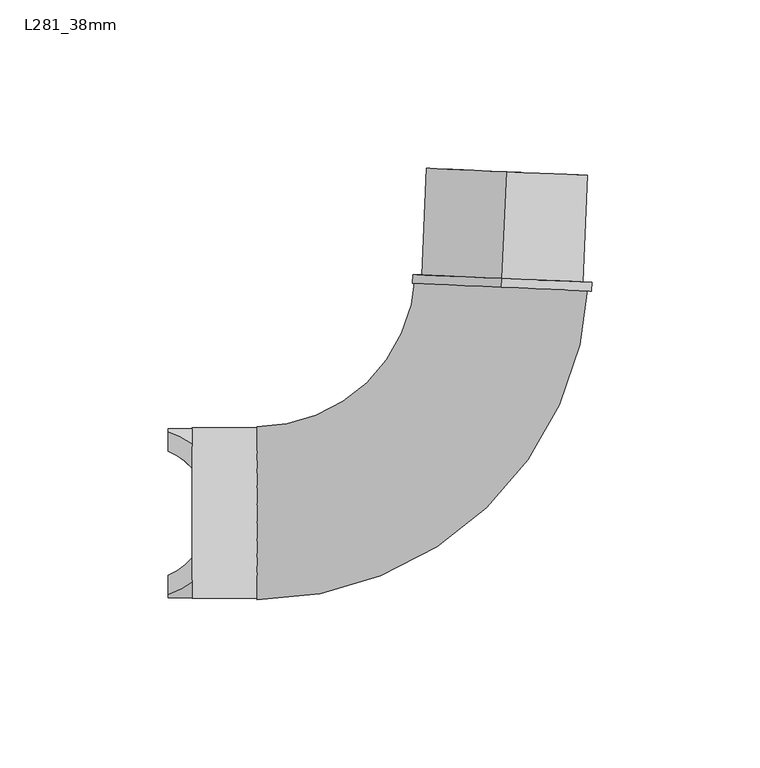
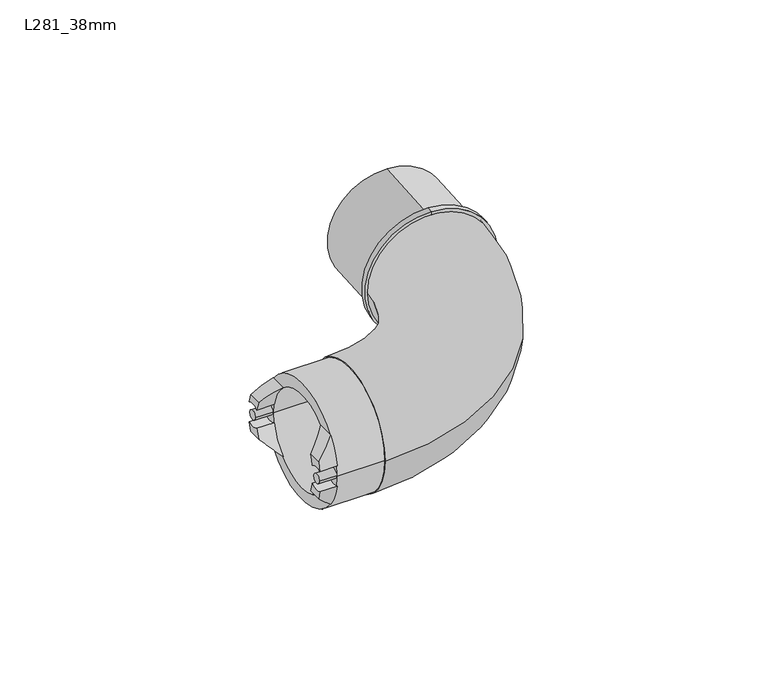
"""IFC4 building model written with IfcOpenShell, lengths in millimetres: pipe fitting geometry, Durapipe_PipeFitting_VulcatheneEnfusion_SingleSocketLongSweepBend_L28 : L281_38mm."""

from ifc_helpers import new_model, si_unit, point, frame, frame_2d, origin, place, context, project, spatial, polyline, circle_curve, ellipse_curve, trimmed, segment, composite_curve, outline, extrude, source, transform, mapped, element, save
from ifc_brep_helpers import plane_surface, cylinder_surface, revolved_surface, advanced_brep


def l281_38mm_a0d47e34(model_context):
    return source(origin(), model_context, "Body", "SolidModel", [
        advanced_brep(
        [(-96.186568, 19.6607692, -3.931495), (-96.186568, 25.0607692, -4.4339988), (-96.186568, 24.1797208, -7.94), (-96.186568, 18.4108365, -7.94), (-89.086568, 20.5597301, -15.0), (-89.086568, 25.0607692, -4.4339988), (-89.086568, 19.6607692, -3.931495), (-89.086568, 13.3042287, -15.0)],
        [
            (0, 1, circle_curve(frame((-96.186568, 22.75, 0.0), z_axis=(1.0, 0.0, 0.0), x_axis=(0.0, -1.0, 0.0)), 5.0)),
            (1, 2, circle_curve(frame((-96.186568, 0.0, 0.0), z_axis=(-1.0, 0.0, 0.0), x_axis=(0.0, -1.0, 0.0)), 25.45)),
            (2, 3),
            (3, 0, circle_curve(frame((-96.186568, 0.0, 0.0), z_axis=(1.0, 0.0, 0.0), x_axis=(0.0, -1.0, 0.0)), 20.05)),
            (4, 5, circle_curve(frame((-89.086568, 0.0, 0.0), z_axis=(1.0, 0.0, 0.0), x_axis=(0.0, -1.0, 0.0)), 25.45)),
            (5, 6, circle_curve(frame((-89.086568, 22.75, 0.0), z_axis=(-1.0, 0.0, 0.0), x_axis=(0.0, -1.0, 0.0)), 5.0)),
            (6, 7, circle_curve(frame((-89.086568, 0.0, 0.0), z_axis=(-1.0, 0.0, 0.0), x_axis=(0.0, -1.0, 0.0)), 20.05)),
            (7, 4),
            (4, 2, ellipse_curve(frame((-104.1715538, 0.0, 0.0), z_axis=(0.7051064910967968, 0.0, 0.7091014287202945), x_axis=(-0.7091014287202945, 0.0, 0.7051064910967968)), 36.0938388, 25.45)),
            (1, 5),
            (6, 0),
            (3, 7, ellipse_curve(frame((-104.1715538, 0.0, 0.0), z_axis=(-0.7051064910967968, 0.0, -0.7091014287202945), x_axis=(0.7091014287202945, 0.0, -0.7051064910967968)), 28.4354211, 20.05)),
        ],
        [
            plane_surface(frame((-96.186568, -20.05, 0.0), z_axis=(-1.0, 0.0, 0.0), x_axis=(0.0, 0.0, -1.0))),
            plane_surface(frame((-89.086568, -20.05, 0.0), z_axis=(1.0, 0.0, 0.0), x_axis=(0.0, 0.0, 1.0))),
            cylinder_surface(frame((-89.086568, 0.0, 0.0), z_axis=(-1.0, 0.0, 0.0), x_axis=(0.0, -1.0, 0.0)), 25.45),
            revolved_surface(polyline([(-84.0079560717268, -20.05, 0.0), (-124.3351515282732, -20.05, 0.0)]), (-89.086568, 0.0, 0.0), (1.0, 0.0, 0.0)),
            revolved_surface(polyline([(-96.186568, 17.75, 0.0), (-89.086568, 17.75, 0.0)]), (-89.086568, 22.75, 0.0), (-1.0, 0.0, 0.0)),
            plane_surface(frame((-89.086568, -104.876707, -15.0), z_axis=(-0.7051064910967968, 0.0, -0.7091014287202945), x_axis=(0.0, 1.0, 0.0))),
        ],
        [
            (0, [[1, 2, 3, 4]]),
            (1, [[5, 6, 7, 8]]),
            (2, [[-5, 9, -2, 10]]),
            (3, [[-7, 11, -4, 12]]),
            (4, [[-1, -11, -6, -10]]),
            (5, [[-3, -9, -8, -12]]),
        ],
    ),
        advanced_brep(
        [(-96.186568, 25.0607692, 4.4339988), (-96.186568, 19.6607692, 3.931495), (-96.186568, 18.4108365, 7.94), (-96.186568, 24.1797208, 7.94), (-89.086568, 25.0607692, 4.4339988), (-89.086568, 20.5597301, 15.0), (-89.086568, 13.3042287, 15.0), (-89.086568, 19.6607692, 3.931495)],
        [
            (0, 1, circle_curve(frame((-96.186568, 22.75, 0.0), z_axis=(1.0, 0.0, 0.0), x_axis=(0.0, -1.0, 0.0)), 5.0)),
            (1, 2, circle_curve(frame((-96.186568, 0.0, 0.0), z_axis=(1.0, 0.0, 0.0), x_axis=(0.0, -1.0, 0.0)), 20.05)),
            (2, 3),
            (3, 0, circle_curve(frame((-96.186568, 0.0, 0.0), z_axis=(-1.0, 0.0, 0.0), x_axis=(0.0, -1.0, 0.0)), 25.45)),
            (4, 5, circle_curve(frame((-89.086568, 0.0, 0.0), z_axis=(1.0, 0.0, 0.0), x_axis=(0.0, -1.0, 0.0)), 25.45)),
            (5, 6),
            (6, 7, circle_curve(frame((-89.086568, 0.0, 0.0), z_axis=(-1.0, 0.0, 0.0), x_axis=(0.0, -1.0, 0.0)), 20.05)),
            (7, 4, circle_curve(frame((-89.086568, 22.75, 0.0), z_axis=(-1.0, 0.0, 0.0), x_axis=(0.0, -1.0, 0.0)), 5.0)),
            (4, 0),
            (3, 5, ellipse_curve(frame((-104.1715538, 0.0, 0.0), z_axis=(0.7051064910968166, 0.0, -0.7091014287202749), x_axis=(-0.7091014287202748, 0.0, -0.7051064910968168)), 36.0938388, 25.45)),
            (6, 2, ellipse_curve(frame((-104.1715538, 0.0, 0.0), z_axis=(-0.7051064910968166, 0.0, 0.7091014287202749), x_axis=(0.7091014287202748, 0.0, 0.7051064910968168)), 28.4354211, 20.05)),
            (1, 7),
        ],
        [
            plane_surface(frame((-96.186568, -20.05, 0.0), z_axis=(-1.0, 0.0, 0.0), x_axis=(0.0, 0.0, -1.0))),
            plane_surface(frame((-89.086568, -20.05, 0.0), z_axis=(1.0, 0.0, 0.0), x_axis=(0.0, 0.0, 1.0))),
            cylinder_surface(frame((-89.086568, 0.0, 0.0), z_axis=(-1.0, 0.0, 0.0), x_axis=(0.0, -1.0, 0.0)), 25.45),
            revolved_surface(polyline([(-84.00795607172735, -20.05, 0.0), (-124.33515152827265, -20.05, 0.0)]), (-89.086568, 0.0, 0.0), (1.0, 0.0, 0.0)),
            revolved_surface(polyline([(-96.186568, 17.75, 0.0), (-89.086568, 17.75, 0.0)]), (-89.086568, 22.75, 0.0), (-1.0, 0.0, 0.0)),
            plane_surface(frame((-96.186568, -104.876707, 7.94), z_axis=(-0.7051064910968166, 0.0, 0.7091014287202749), x_axis=(0.0, 1.0, 0.0))),
        ],
        [
            (0, [[1, 2, 3, 4]]),
            (1, [[5, 6, 7, 8]]),
            (2, [[-5, 9, -4, 10]]),
            (3, [[-7, 11, -2, 12]]),
            (4, [[-1, -9, -8, -12]]),
            (5, [[-3, -11, -6, -10]]),
        ],
    ),
        advanced_brep(
        [(-96.186568, -25.0607692, -4.4339988), (-96.186568, -19.6607692, -3.931495), (-96.186568, -18.4108365, -7.94), (-96.186568, -24.1797208, -7.94), (-89.086568, -25.0607692, -4.4339988), (-89.086568, -20.5597301, -15.0), (-89.086568, -13.3042287, -15.0), (-89.086568, -19.6607692, -3.931495)],
        [
            (0, 1, circle_curve(frame((-96.186568, -22.75, 0.0), z_axis=(1.0, 0.0, 0.0), x_axis=(0.0, -1.0, 0.0)), 5.0)),
            (1, 2, circle_curve(frame((-96.186568, 0.0, 0.0), z_axis=(1.0, 0.0, 0.0), x_axis=(0.0, -1.0, 0.0)), 20.05)),
            (2, 3),
            (3, 0, circle_curve(frame((-96.186568, 0.0, 0.0), z_axis=(-1.0, 0.0, 0.0), x_axis=(0.0, -1.0, 0.0)), 25.45)),
            (4, 5, circle_curve(frame((-89.086568, 0.0, 0.0), z_axis=(1.0, 0.0, 0.0), x_axis=(0.0, -1.0, 0.0)), 25.45)),
            (5, 6),
            (6, 7, circle_curve(frame((-89.086568, 0.0, 0.0), z_axis=(-1.0, 0.0, 0.0), x_axis=(0.0, -1.0, 0.0)), 20.05)),
            (7, 4, circle_curve(frame((-89.086568, -22.75, 0.0), z_axis=(-1.0, 0.0, 0.0), x_axis=(0.0, -1.0, 0.0)), 5.0)),
            (4, 0),
            (3, 5, ellipse_curve(frame((-104.1715538, 0.0, 0.0), z_axis=(0.7051064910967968, 0.0, 0.7091014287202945), x_axis=(-0.7091014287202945, 0.0, 0.7051064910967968)), 36.0938388, 25.45)),
            (6, 2, ellipse_curve(frame((-104.1715538, 0.0, 0.0), z_axis=(-0.7051064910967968, 0.0, -0.7091014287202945), x_axis=(0.7091014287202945, 0.0, -0.7051064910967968)), 28.4354211, 20.05)),
            (1, 7),
        ],
        [
            plane_surface(frame((-96.186568, -20.05, 0.0), z_axis=(-1.0, 0.0, 0.0), x_axis=(0.0, 0.0, -1.0))),
            plane_surface(frame((-89.086568, -20.05, 0.0), z_axis=(1.0, 0.0, 0.0), x_axis=(0.0, 0.0, 1.0))),
            cylinder_surface(frame((-89.086568, 0.0, 0.0), z_axis=(-1.0, 0.0, 0.0), x_axis=(0.0, -1.0, 0.0)), 25.45),
            revolved_surface(polyline([(-84.0079560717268, -20.05, 0.0), (-124.3351515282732, -20.05, 0.0)]), (-89.086568, 0.0, 0.0), (1.0, 0.0, 0.0)),
            revolved_surface(polyline([(-96.186568, -27.75, 0.0), (-89.086568, -27.75, 0.0)]), (-89.086568, -22.75, 0.0), (-1.0, 0.0, 0.0)),
            plane_surface(frame((-89.086568, -104.876707, -15.0), z_axis=(-0.7051064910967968, 0.0, -0.7091014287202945), x_axis=(0.0, 1.0, 0.0))),
        ],
        [
            (0, [[1, 2, 3, 4]]),
            (1, [[5, 6, 7, 8]]),
            (2, [[-5, 9, -4, 10]]),
            (3, [[-7, 11, -2, 12]]),
            (4, [[-1, -9, -8, -12]]),
            (5, [[-3, -11, -6, -10]]),
        ],
    ),
        advanced_brep(
        [(-96.186568, -19.6607692, 3.931495), (-96.186568, -25.0607692, 4.4339988), (-96.186568, -24.1797208, 7.94), (-96.186568, -18.4108365, 7.94), (-89.086568, -20.5597301, 15.0), (-89.086568, -25.0607692, 4.4339988), (-89.086568, -19.6607692, 3.931495), (-89.086568, -13.3042287, 15.0)],
        [
            (0, 1, circle_curve(frame((-96.186568, -22.75, 0.0), z_axis=(1.0, 0.0, 0.0), x_axis=(0.0, -1.0, 0.0)), 5.0)),
            (1, 2, circle_curve(frame((-96.186568, 0.0, 0.0), z_axis=(-1.0, 0.0, 0.0), x_axis=(0.0, -1.0, 0.0)), 25.45)),
            (2, 3),
            (3, 0, circle_curve(frame((-96.186568, 0.0, 0.0), z_axis=(1.0, 0.0, 0.0), x_axis=(0.0, -1.0, 0.0)), 20.05)),
            (4, 5, circle_curve(frame((-89.086568, 0.0, 0.0), z_axis=(1.0, 0.0, 0.0), x_axis=(0.0, -1.0, 0.0)), 25.45)),
            (5, 6, circle_curve(frame((-89.086568, -22.75, 0.0), z_axis=(-1.0, 0.0, 0.0), x_axis=(0.0, -1.0, 0.0)), 5.0)),
            (6, 7, circle_curve(frame((-89.086568, 0.0, 0.0), z_axis=(-1.0, 0.0, 0.0), x_axis=(0.0, -1.0, 0.0)), 20.05)),
            (7, 4),
            (4, 2, ellipse_curve(frame((-104.1715538, 0.0, 0.0), z_axis=(0.7051064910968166, 0.0, -0.7091014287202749), x_axis=(-0.7091014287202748, 0.0, -0.7051064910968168)), 36.0938388, 25.45)),
            (1, 5),
            (6, 0),
            (3, 7, ellipse_curve(frame((-104.1715538, 0.0, 0.0), z_axis=(-0.7051064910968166, 0.0, 0.7091014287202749), x_axis=(0.7091014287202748, 0.0, 0.7051064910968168)), 28.4354211, 20.05)),
        ],
        [
            plane_surface(frame((-96.186568, -20.05, 0.0), z_axis=(-1.0, 0.0, 0.0), x_axis=(0.0, 0.0, -1.0))),
            plane_surface(frame((-89.086568, -20.05, 0.0), z_axis=(1.0, 0.0, 0.0), x_axis=(0.0, 0.0, 1.0))),
            cylinder_surface(frame((-89.086568, 0.0, 0.0), z_axis=(-1.0, 0.0, 0.0), x_axis=(0.0, -1.0, 0.0)), 25.45),
            revolved_surface(polyline([(-84.00795607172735, -20.05, 0.0), (-124.33515152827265, -20.05, 0.0)]), (-89.086568, 0.0, 0.0), (1.0, 0.0, 0.0)),
            revolved_surface(polyline([(-96.186568, -27.75, 0.0), (-89.086568, -27.75, 0.0)]), (-89.086568, -22.75, 0.0), (-1.0, 0.0, 0.0)),
            plane_surface(frame((-96.186568, -104.876707, 7.94), z_axis=(-0.7051064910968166, 0.0, 0.7091014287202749), x_axis=(0.0, 1.0, 0.0))),
        ],
        [
            (0, [[1, 2, 3, 4]]),
            (1, [[5, 6, 7, 8]]),
            (2, [[-5, 9, -2, 10]]),
            (3, [[-7, 11, -4, 12]]),
            (4, [[-1, -11, -6, -10]]),
            (5, [[-3, -9, -8, -12]]),
        ],
    ),
        extrude(outline(composite_curve([segment(trimmed(circle_curve(frame_2d((22.75, 0.0)), 2.0), [point((24.75, 0.0))], [point((20.75, 0.0))], False, "CARTESIAN"), True, "CONTINUOUS"), segment(trimmed(circle_curve(frame_2d((22.75, 0.0)), 2.0), [point((20.75, 0.0))], [point((24.75, 0.0))], False, "CARTESIAN"), True, "CONTINUOUS")], self_intersect=False)), frame((-96.186568, 0.0, 0.0), z_axis=(1.0, 0.0, 0.0), x_axis=(0.0, 1.0, 0.0)), (0.0, 0.0, 1.0), 7.1),
        extrude(outline(composite_curve([segment(trimmed(circle_curve(frame_2d((-22.75, 0.0)), 2.0), [point((-20.75, 0.0))], [point((-24.75, 0.0))], False, "CARTESIAN"), True, "CONTINUOUS"), segment(trimmed(circle_curve(frame_2d((-22.75, 0.0)), 2.0), [point((-24.75, 0.0))], [point((-20.75, 0.0))], False, "CARTESIAN"), True, "CONTINUOUS")], self_intersect=False)), frame((-96.186568, 0.0, 0.0), z_axis=(1.0, 0.0, 0.0), x_axis=(0.0, 1.0, 0.0)), (0.0, 0.0, 1.0), 7.1),
        advanced_brep(
        [(2.9306369, 67.1226213, -26.7), (2.9306369, 67.1226213, 26.7), (2.9306369, 67.1226213, 21.8), (2.9306369, 67.1226213, -21.8), (3.0440473, 69.7201467, -26.7), (3.0440473, 69.7201467, 26.7), (3.0440473, 69.7201467, -24.0), (3.0440473, 69.7201467, 24.0), (4.4267819, 101.3899753, -24.0), (4.4267819, 101.3899753, 24.0), (4.4267819, 101.3899753, -21.8), (4.4267819, 101.3899753, 21.8)],
        [
            (0, 1, circle_curve(frame((2.9306369, 67.1226213, 0.0), z_axis=(-0.04361938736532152, -0.9990482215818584, 0.0), x_axis=(0.0, 0.0, 1.0)), 26.7)),
            (1, 2),
            (2, 3, circle_curve(frame((2.9306369, 67.1226213, 0.0), z_axis=(0.04361938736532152, 0.9990482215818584, 0.0), x_axis=(0.0, 0.0, 1.0)), 21.8)),
            (3, 0),
            (1, 0, circle_curve(frame((2.9306369, 67.1226213, 0.0), z_axis=(-0.04361938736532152, -0.9990482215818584, 0.0), x_axis=(0.0, 0.0, 1.0)), 26.7)),
            (3, 2, circle_curve(frame((2.9306369, 67.1226213, 0.0), z_axis=(0.04361938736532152, 0.9990482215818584, 0.0), x_axis=(0.0, 0.0, 1.0)), 21.8)),
            (4, 5, circle_curve(frame((3.0440473, 69.7201467, 0.0), z_axis=(-0.04361938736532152, -0.9990482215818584, 0.0), x_axis=(0.0, 0.0, 1.0)), 26.7)),
            (5, 1),
            (0, 4),
            (5, 4, circle_curve(frame((3.0440473, 69.7201467, 0.0), z_axis=(-0.04361938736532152, -0.9990482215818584, 0.0), x_axis=(0.0, 0.0, 1.0)), 26.7)),
            (6, 7, circle_curve(frame((3.0440473, 69.7201467, 0.0), z_axis=(-0.04361938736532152, -0.9990482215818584, 0.0), x_axis=(0.0, 0.0, 1.0)), 24.0)),
            (7, 5),
            (4, 6),
            (7, 6, circle_curve(frame((3.0440473, 69.7201467, 0.0), z_axis=(-0.04361938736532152, -0.9990482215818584, 0.0), x_axis=(0.0, 0.0, 1.0)), 24.0)),
            (8, 9, circle_curve(frame((4.4267819, 101.3899753, 0.0), z_axis=(-0.04361938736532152, -0.9990482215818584, 0.0), x_axis=(0.0, 0.0, 1.0)), 24.0)),
            (9, 7),
            (6, 8),
            (9, 8, circle_curve(frame((4.4267819, 101.3899753, 0.0), z_axis=(-0.04361938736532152, -0.9990482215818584, 0.0), x_axis=(0.0, 0.0, 1.0)), 24.0)),
            (10, 11, circle_curve(frame((4.4267819, 101.3899753, 0.0), z_axis=(-0.04361938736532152, -0.9990482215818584, 0.0), x_axis=(0.0, 0.0, 1.0)), 21.8)),
            (11, 9),
            (8, 10),
            (11, 10, circle_curve(frame((4.4267819, 101.3899753, 0.0), z_axis=(-0.04361938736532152, -0.9990482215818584, 0.0), x_axis=(0.0, 0.0, 1.0)), 21.8)),
            (2, 11),
            (10, 3),
        ],
        [
            plane_surface(frame((2.9306369, 67.1226213, 0.0), z_axis=(-0.04361938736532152, -0.9990482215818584, 0.0), x_axis=(0.0, 0.0, 1.0))),
            cylinder_surface(frame((115.6151347, 2648.021938, 0.0), z_axis=(0.04361938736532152, 0.9990482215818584, 0.0), x_axis=(0.0, 0.0, 1.0)), 26.7),
            plane_surface(frame((3.0440473, 69.7201467, 0.0), z_axis=(0.04361938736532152, 0.9990482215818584, 0.0), x_axis=(0.0, 0.0, 1.0))),
            cylinder_surface(frame((115.6151347, 2648.021938, 0.0), z_axis=(0.04361938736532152, 0.9990482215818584, 0.0), x_axis=(0.0, 0.0, 1.0)), 24.0),
            plane_surface(frame((4.4267819, 101.3899753, 0.0), z_axis=(0.04361938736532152, 0.9990482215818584, 0.0), x_axis=(0.0, 0.0, 1.0))),
            revolved_surface(polyline([(4.426781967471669, 101.38997529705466, 21.8), (2.9306369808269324, 67.1226212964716, 21.8)]), (115.6151347, 2648.021938, 0.0), (0.04361938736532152, 0.9990482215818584, 0.0)),
        ],
        [
            (0, [[1, 2, 3, 4]]),
            (0, [[5, -4, 6, -2]]),
            (1, [[7, 8, -1, 9]]),
            (1, [[10, -9, -5, -8]]),
            (2, [[11, 12, -7, 13]]),
            (2, [[14, -13, -10, -12]]),
            (3, [[15, 16, -11, 17]]),
            (3, [[18, -17, -14, -16]]),
            (4, [[19, 20, -15, 21]]),
            (4, [[22, -21, -18, -20]]),
            (5, [[-3, 23, -19, 24]]),
            (5, [[-6, -24, -22, -23]]),
        ],
    ),
        advanced_brep(
        [(-89.086568, 20.2, 0.0), (-89.086568, -20.2, 0.0), (-66.086568, -20.2, 0.0), (-66.086568, 20.2, 0.0), (-66.086568, -21.8, 0.0), (-66.086568, 21.8, 0.0), (-69.786568, -21.8, 0.0), (-69.786568, 21.8, 0.0), (-69.786568, -25.3, 0.0), (-69.786568, 25.3, 0.0), (-89.086568, -25.3, 0.0), (-89.086568, 25.3, 0.0)],
        [
            (0, 1, circle_curve(frame((-89.086568, 0.0, 0.0), z_axis=(-1.0, 0.0, 0.0), x_axis=(0.0, -1.0, 0.0)), 20.2)),
            (1, 2),
            (2, 3, circle_curve(frame((-66.086568, 0.0, 0.0), z_axis=(1.0, 0.0, 0.0), x_axis=(0.0, -1.0, 0.0)), 20.2)),
            (3, 0),
            (1, 0, circle_curve(frame((-89.086568, 0.0, 0.0), z_axis=(-1.0, 0.0, 0.0), x_axis=(0.0, -1.0, 0.0)), 20.2)),
            (3, 2, circle_curve(frame((-66.086568, 0.0, 0.0), z_axis=(1.0, 0.0, 0.0), x_axis=(0.0, -1.0, 0.0)), 20.2)),
            (2, 4),
            (4, 5, circle_curve(frame((-66.086568, 0.0, 0.0), z_axis=(1.0, 0.0, 0.0), x_axis=(0.0, -1.0, 0.0)), 21.8)),
            (5, 3),
            (5, 4, circle_curve(frame((-66.086568, 0.0, 0.0), z_axis=(1.0, 0.0, 0.0), x_axis=(0.0, -1.0, 0.0)), 21.8)),
            (4, 6),
            (6, 7, circle_curve(frame((-69.786568, 0.0, 0.0), z_axis=(1.0, 0.0, 0.0), x_axis=(0.0, -1.0, 0.0)), 21.8)),
            (7, 5),
            (7, 6, circle_curve(frame((-69.786568, 0.0, 0.0), z_axis=(1.0, 0.0, 0.0), x_axis=(0.0, -1.0, 0.0)), 21.8)),
            (6, 8),
            (8, 9, circle_curve(frame((-69.786568, 0.0, 0.0), z_axis=(1.0, 0.0, 0.0), x_axis=(0.0, -1.0, 0.0)), 25.3)),
            (9, 7),
            (9, 8, circle_curve(frame((-69.786568, 0.0, 0.0), z_axis=(1.0, 0.0, 0.0), x_axis=(0.0, -1.0, 0.0)), 25.3)),
            (8, 10),
            (10, 11, circle_curve(frame((-89.086568, 0.0, 0.0), z_axis=(1.0, 0.0, 0.0), x_axis=(0.0, -1.0, 0.0)), 25.3)),
            (11, 9),
            (11, 10, circle_curve(frame((-89.086568, 0.0, 0.0), z_axis=(1.0, 0.0, 0.0), x_axis=(0.0, -1.0, 0.0)), 25.3)),
            (10, 1),
            (0, 11),
        ],
        [
            revolved_surface(polyline([(-66.08656799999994, -20.2, 0.0), (-89.08656799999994, -20.2, 0.0)]), (1571.2518184, 0.0, 0.0), (1.0, 0.0, 0.0)),
            plane_surface(frame((-66.086568, 0.0, 0.0), z_axis=(1.0, 0.0, 0.0), x_axis=(0.0, -1.0, 0.0))),
            cylinder_surface(frame((1571.2518184, 0.0, 0.0), z_axis=(1.0, 0.0, 0.0), x_axis=(0.0, -1.0, 0.0)), 21.8),
            plane_surface(frame((-69.786568, 0.0, 0.0), z_axis=(1.0, 0.0, 0.0), x_axis=(0.0, -1.0, 0.0))),
            cylinder_surface(frame((1571.2518184, 0.0, 0.0), z_axis=(1.0, 0.0, 0.0), x_axis=(0.0, -1.0, 0.0)), 25.3),
            plane_surface(frame((-89.086568, 0.0, 0.0), z_axis=(-1.0, 0.0, 0.0), x_axis=(0.0, -1.0, 0.0))),
        ],
        [
            (0, [[1, 2, 3, 4]]),
            (0, [[5, -4, 6, -2]]),
            (1, [[-3, 7, 8, 9]]),
            (1, [[-6, -9, 10, -7]]),
            (2, [[-8, 11, 12, 13]]),
            (2, [[-10, -13, 14, -11]]),
            (3, [[-12, 15, 16, 17]]),
            (3, [[-14, -17, 18, -15]]),
            (4, [[-16, 19, 20, 21]]),
            (4, [[-18, -21, 22, -19]]),
            (5, [[-20, 23, -1, 24]]),
            (5, [[-22, -24, -5, -23]]),
        ],
    ),
        advanced_brep(
        [(-69.786568, -25.7, 0.0), (-69.786568, 25.7, 0.0), (-69.786568, -21.8, 0.0), (-69.786568, 21.8, 0.0), (28.7195866, 68.5991284, 0.0), (-22.631492, 70.8411649, 0.0), (24.8232986, 68.769244, 0.0), (-18.7352039, 70.6710493, 0.0)],
        [
            (0, 1, circle_curve(frame((-69.786568, 0.0, 0.0), z_axis=(-1.0, 0.0, 0.0), x_axis=(0.0, 1.0, 0.0)), 25.7)),
            (1, 0, circle_curve(frame((-69.786568, 0.0, 0.0), z_axis=(-1.0, 0.0, 0.0), x_axis=(0.0, 1.0, 0.0)), 25.7)),
            (2, 3, circle_curve(frame((-69.786568, 0.0, 0.0), z_axis=(1.0, 0.0, 0.0), x_axis=(0.0, 1.0, 0.0)), 21.8)),
            (3, 2, circle_curve(frame((-69.786568, 0.0, 0.0), z_axis=(1.0, 0.0, 0.0), x_axis=(0.0, 1.0, 0.0)), 21.8)),
            (4, 5, circle_curve(frame((3.0440473, 69.7201467, 0.0), z_axis=(0.043619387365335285, 0.9990482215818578, 0.0), x_axis=(-0.9990482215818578, 0.043619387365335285, 0.0)), 25.7)),
            (5, 4, circle_curve(frame((3.0440473, 69.7201467, 0.0), z_axis=(0.043619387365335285, 0.9990482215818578, 0.0), x_axis=(-0.9990482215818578, 0.043619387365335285, 0.0)), 25.7)),
            (6, 7, circle_curve(frame((3.0440473, 69.7201467, 0.0), z_axis=(-0.043619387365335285, -0.9990482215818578, 0.0), x_axis=(-0.9990482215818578, 0.043619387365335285, 0.0)), 21.8)),
            (7, 6, circle_curve(frame((3.0440473, 69.7201467, 0.0), z_axis=(-0.043619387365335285, -0.9990482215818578, 0.0), x_axis=(-0.9990482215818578, 0.043619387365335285, 0.0)), 21.8)),
            (7, 3, circle_curve(frame((-69.786568, 72.9, 0.0), z_axis=(0.0, 0.0, -1.0), x_axis=(0.0, -1.0, 0.0)), 51.1)),
            (2, 6, circle_curve(frame((-69.786568, 72.9, 0.0), z_axis=(0.0, 0.0, 1.0), x_axis=(0.0, -1.0, 0.0)), 94.7)),
            (5, 1, circle_curve(frame((-69.786568, 72.9, 0.0), z_axis=(0.0, 0.0, -1.0), x_axis=(0.0, -1.0, 0.0)), 47.2)),
            (0, 4, circle_curve(frame((-69.786568, 72.9, 0.0), z_axis=(0.0, 0.0, 1.0), x_axis=(0.0, -1.0, 0.0)), 98.6)),
        ],
        [
            plane_surface(frame((-69.786568, 0.0, 0.0), z_axis=(-1.0, 0.0, 0.0), x_axis=(0.0, 0.0, 1.0))),
            plane_surface(frame((3.0440473, 69.7201467, 0.0), z_axis=(0.043619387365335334, 0.9990482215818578, 0.0), x_axis=(0.0, 0.0, 1.0))),
            revolved_surface(trimmed(ellipse_curve(frame((-69.786568, 0.0, 0.0), z_axis=(1.0, 0.0, 0.0), x_axis=(0.0, 1.0, 0.0)), 21.8, 21.8), [point((-69.786568, -21.8, 0.0))], [point((-69.786568, 21.8, 0.0))], True, "CARTESIAN"), (-69.786568, 72.9, 0.0), (0.0, 0.0, 1.0)),
            revolved_surface(trimmed(ellipse_curve(frame((-69.786568, 0.0, 0.0), z_axis=(1.0, 0.0, 0.0), x_axis=(0.0, 1.0, 0.0)), 21.8, 21.8), [point((-69.786568, 21.8, 0.0))], [point((-69.786568, -21.8, 0.0))], True, "CARTESIAN"), (-69.786568, 72.9, 0.0), (0.0, 0.0, 1.0)),
            revolved_surface(trimmed(ellipse_curve(frame((-69.786568, 0.0, 0.0), z_axis=(-1.0, 0.0, 0.0), x_axis=(0.0, 1.0, 0.0)), 25.7, 25.7), [point((-69.786568, -25.7, 0.0))], [point((-69.786568, 25.7, 0.0))], True, "CARTESIAN"), (-69.786568, 72.9, 0.0), (0.0, 0.0, 1.0)),
            revolved_surface(trimmed(ellipse_curve(frame((-69.786568, 0.0, 0.0), z_axis=(-1.0, 0.0, 0.0), x_axis=(0.0, 1.0, 0.0)), 25.7, 25.7), [point((-69.786568, 25.7, 0.0))], [point((-69.786568, -25.7, 0.0))], True, "CARTESIAN"), (-69.786568, 72.9, 0.0), (0.0, 0.0, 1.0)),
        ],
        [
            (0, [[1, 2], [3, 4]]),
            (1, [[5, 6], [7, 8]]),
            (2, [[9, -3, 10, -8]]),
            (3, [[-10, -4, -9, -7]]),
            (4, [[11, -1, 12, -6]]),
            (5, [[-12, -2, -11, -5]]),
        ],
    ),
    ])


if __name__ == "__main__":
    model = new_model("IFC4")
    model_context = context("Model", 3, world=origin())
    ifc_project = project(units=[si_unit("LENGTHUNIT", "METRE", prefix="MILLI")], contexts=[model_context])
    site = spatial("IfcSite", under=ifc_project)
    building = spatial("IfcBuilding", under=site)
    placement = place(None, origin())
    l281_38mm_shape = l281_38mm_a0d47e34(model_context)
    element("IfcPipeFitting", 1, ObjectType="Durapipe_PipeFitting_VulcatheneEnfusion_SingleSocketLongSweepBend_L28 : L281_38mm", at=placement, inside=building, context=model_context, shape_type="MappedRepresentation", body=[
        mapped(l281_38mm_shape, transform((0.0, 0.0, 0.0), x_axis=(1.0, 0.0, 0.0), y_axis=(0.0, 1.0, 0.0), z_axis=(0.0, 0.0, 1.0))),
    ])
    save(model, "model.ifc")
